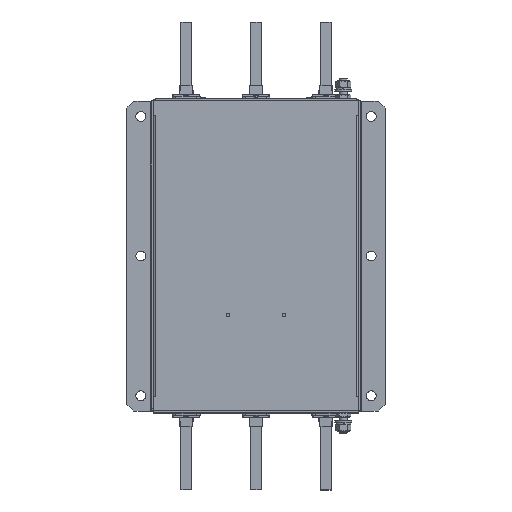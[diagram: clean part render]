
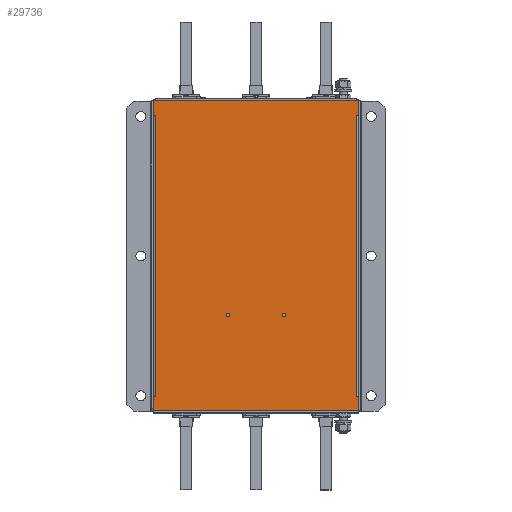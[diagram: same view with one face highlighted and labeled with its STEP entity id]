
A CAD part, top view. The second image highlights one B-rep face of the part: STEP entity #29736.
In plain terms, the highlighted planar face has unit normal (0, 0, 1).
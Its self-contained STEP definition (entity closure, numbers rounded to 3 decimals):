
#2555=LINE('',#52680,#4694);
#2558=LINE('',#52686,#4697);
#2561=LINE('',#52694,#4700);
#2564=LINE('',#52698,#4703);
#2582=LINE('',#52735,#4721);
#2584=LINE('',#52739,#4723);
#2586=LINE('',#52742,#4725);
#2587=LINE('',#52745,#4726);
#2588=LINE('',#52747,#4727);
#2589=LINE('',#52749,#4728);
#2590=LINE('',#52751,#4729);
#2591=LINE('',#52753,#4730);
#2592=LINE('',#52755,#4731);
#2593=LINE('',#52757,#4732);
#2594=LINE('',#52759,#4733);
#2595=LINE('',#52761,#4734);
#2596=LINE('',#52763,#4735);
#2597=LINE('',#52765,#4736);
#2598=LINE('',#52767,#4737);
#2599=LINE('',#52768,#4738);
#4694=VECTOR('',#40834,10.);
#4697=VECTOR('',#40839,10.);
#4700=VECTOR('',#40844,10.);
#4703=VECTOR('',#40849,10.);
#4721=VECTOR('',#40871,10.);
#4723=VECTOR('',#40875,10.);
#4725=VECTOR('',#40879,10.);
#4726=VECTOR('',#40882,10.);
#4727=VECTOR('',#40883,10.);
#4728=VECTOR('',#40884,10.);
#4729=VECTOR('',#40885,10.);
#4730=VECTOR('',#40886,10.);
#4731=VECTOR('',#40887,10.);
#4732=VECTOR('',#40888,10.);
#4733=VECTOR('',#40889,10.);
#4734=VECTOR('',#40890,10.);
#4735=VECTOR('',#40891,10.);
#4736=VECTOR('',#40892,10.);
#4737=VECTOR('',#40893,10.);
#4738=VECTOR('',#40894,10.);
#6382=FACE_BOUND('',#10396,.T.);
#6383=FACE_BOUND('',#10397,.T.);
#8045=FACE_OUTER_BOUND('',#10395,.T.);
#10395=EDGE_LOOP('',(#25434,#25435,#25436,#25437,#25438,#25439,#25440,#25441,
#25442,#25443,#25444,#25445,#25446,#25447,#25448,#25449,#25450,#25451,#25452,
#25453));
#10396=EDGE_LOOP('',(#25454));
#10397=EDGE_LOOP('',(#25455));
#11496=CIRCLE('',#32730,2.41);
#11500=CIRCLE('',#32738,2.41);
#14042=VERTEX_POINT('',#52595);
#14046=VERTEX_POINT('',#52607);
#14068=VERTEX_POINT('',#52665);
#14069=VERTEX_POINT('',#52669);
#14072=VERTEX_POINT('',#52684);
#14075=VERTEX_POINT('',#52691);
#14076=VERTEX_POINT('',#52693);
#14092=VERTEX_POINT('',#52732);
#14093=VERTEX_POINT('',#52734);
#14094=VERTEX_POINT('',#52738);
#14095=VERTEX_POINT('',#52744);
#14096=VERTEX_POINT('',#52746);
#14097=VERTEX_POINT('',#52748);
#14098=VERTEX_POINT('',#52750);
#14099=VERTEX_POINT('',#52752);
#14100=VERTEX_POINT('',#52754);
#14101=VERTEX_POINT('',#52756);
#14102=VERTEX_POINT('',#52758);
#14103=VERTEX_POINT('',#52760);
#14104=VERTEX_POINT('',#52762);
#14105=VERTEX_POINT('',#52764);
#14106=VERTEX_POINT('',#52766);
#17813=EDGE_CURVE('',#14042,#14042,#11496,.T.);
#17817=EDGE_CURVE('',#14046,#14046,#11500,.T.);
#17849=EDGE_CURVE('',#14068,#14069,#2555,.T.);
#17852=EDGE_CURVE('',#14069,#14072,#2558,.T.);
#17855=EDGE_CURVE('',#14076,#14075,#2561,.T.);
#17858=EDGE_CURVE('',#14072,#14076,#2564,.T.);
#17876=EDGE_CURVE('',#14093,#14092,#2582,.T.);
#17878=EDGE_CURVE('',#14094,#14068,#2584,.T.);
#17880=EDGE_CURVE('',#14092,#14094,#2586,.T.);
#17881=EDGE_CURVE('',#14095,#14075,#2587,.T.);
#17882=EDGE_CURVE('',#14096,#14095,#2588,.T.);
#17883=EDGE_CURVE('',#14097,#14096,#2589,.T.);
#17884=EDGE_CURVE('',#14097,#14098,#2590,.T.);
#17885=EDGE_CURVE('',#14098,#14099,#2591,.T.);
#17886=EDGE_CURVE('',#14099,#14100,#2592,.T.);
#17887=EDGE_CURVE('',#14100,#14101,#2593,.T.);
#17888=EDGE_CURVE('',#14101,#14102,#2594,.T.);
#17889=EDGE_CURVE('',#14102,#14103,#2595,.T.);
#17890=EDGE_CURVE('',#14103,#14104,#2596,.T.);
#17891=EDGE_CURVE('',#14105,#14104,#2597,.T.);
#17892=EDGE_CURVE('',#14106,#14105,#2598,.T.);
#17893=EDGE_CURVE('',#14093,#14106,#2599,.T.);
#25434=ORIENTED_EDGE('',*,*,#17855,.T.);
#25435=ORIENTED_EDGE('',*,*,#17881,.F.);
#25436=ORIENTED_EDGE('',*,*,#17882,.F.);
#25437=ORIENTED_EDGE('',*,*,#17883,.F.);
#25438=ORIENTED_EDGE('',*,*,#17884,.T.);
#25439=ORIENTED_EDGE('',*,*,#17885,.T.);
#25440=ORIENTED_EDGE('',*,*,#17886,.T.);
#25441=ORIENTED_EDGE('',*,*,#17887,.T.);
#25442=ORIENTED_EDGE('',*,*,#17888,.T.);
#25443=ORIENTED_EDGE('',*,*,#17889,.T.);
#25444=ORIENTED_EDGE('',*,*,#17890,.T.);
#25445=ORIENTED_EDGE('',*,*,#17891,.F.);
#25446=ORIENTED_EDGE('',*,*,#17892,.F.);
#25447=ORIENTED_EDGE('',*,*,#17893,.F.);
#25448=ORIENTED_EDGE('',*,*,#17876,.T.);
#25449=ORIENTED_EDGE('',*,*,#17880,.T.);
#25450=ORIENTED_EDGE('',*,*,#17878,.T.);
#25451=ORIENTED_EDGE('',*,*,#17849,.T.);
#25452=ORIENTED_EDGE('',*,*,#17852,.T.);
#25453=ORIENTED_EDGE('',*,*,#17858,.T.);
#25454=ORIENTED_EDGE('',*,*,#17813,.T.);
#25455=ORIENTED_EDGE('',*,*,#17817,.T.);
#26382=PLANE('',#32778);
#29736=ADVANCED_FACE('',(#8045,#6382,#6383),#26382,.T.);
#32730=AXIS2_PLACEMENT_3D('',#52596,#40737,#40738);
#32738=AXIS2_PLACEMENT_3D('',#52608,#40753,#40754);
#32778=AXIS2_PLACEMENT_3D('',#52743,#40880,#40881);
#40737=DIRECTION('center_axis',(0.,0.,
-1.));
#40738=DIRECTION('ref_axis',(-1.,0.,0.));
#40753=DIRECTION('center_axis',(0.,0.,
-1.));
#40754=DIRECTION('ref_axis',(1.,0.,0.));
#40834=DIRECTION('',(0.,1.,0.));
#40839=DIRECTION('',(-1.,0.,0.));
#40844=DIRECTION('',(1.,0.,0.));
#40849=DIRECTION('',(0.,1.,0.));
#40871=DIRECTION('',(-1.,0.,0.));
#40875=DIRECTION('',(1.,0.,0.));
#40879=DIRECTION('',(0.,1.,0.));
#40880=DIRECTION('center_axis',(0.,0.,
1.));
#40881=DIRECTION('ref_axis',(-1.,0.,0.));
#40882=DIRECTION('',(0.,-1.,0.));
#40883=DIRECTION('',(1.,0.,0.));
#40884=DIRECTION('',(0.,1.,0.));
#40885=DIRECTION('',(1.,0.,0.));
#40886=DIRECTION('',(0.,-1.,0.));
#40887=DIRECTION('',(-1.,0.,0.));
#40888=DIRECTION('',(0.,-1.,0.));
#40889=DIRECTION('',(1.,0.,0.));
#40890=DIRECTION('',(0.,-1.,0.));
#40891=DIRECTION('',(-1.,0.,0.));
#40892=DIRECTION('',(0.,1.,0.));
#40893=DIRECTION('',(-1.,0.,0.));
#40894=DIRECTION('',(0.,-1.,0.));
#52595=CARTESIAN_POINT('',(-37.59,-86.5,220.));
#52596=CARTESIAN_POINT('Origin',(-40.,-86.5,220.));
#52607=CARTESIAN_POINT('',(37.59,-86.5,220.));
#52608=CARTESIAN_POINT('Origin',(40.,-86.5,220.));
#52665=CARTESIAN_POINT('',(144.45,-203.15,220.));
#52669=CARTESIAN_POINT('',(144.45,200.15,220.));
#52680=CARTESIAN_POINT('',(144.45,99.325,220.));
#52684=CARTESIAN_POINT('',(144.44,200.15,220.));
#52686=CARTESIAN_POINT('',(72.22,200.15,220.));
#52691=CARTESIAN_POINT('',(146.75,200.16,220.));
#52693=CARTESIAN_POINT('',(144.44,200.16,220.));
#52694=CARTESIAN_POINT('',(73.375,200.16,220.));
#52698=CARTESIAN_POINT('',(144.44,99.33,220.));
#52732=CARTESIAN_POINT('',(144.44,-203.16,220.));
#52734=CARTESIAN_POINT('',(146.75,-203.16,220.));
#52735=CARTESIAN_POINT('',(72.22,-203.16,220.));
#52738=CARTESIAN_POINT('',(144.44,-203.15,220.));
#52739=CARTESIAN_POINT('',(73.375,-203.15,220.));
#52742=CARTESIAN_POINT('',(144.44,-102.325,220.));
#52743=CARTESIAN_POINT('Origin',(0.,-1.5,
220.));
#52744=CARTESIAN_POINT('',(146.75,220.25,220.));
#52745=CARTESIAN_POINT('',(146.75,220.25,220.));
#52746=CARTESIAN_POINT('',(-146.75,220.25,220.));
#52747=CARTESIAN_POINT('',(-146.75,220.25,220.));
#52748=CARTESIAN_POINT('',(-146.75,200.16,220.));
#52749=CARTESIAN_POINT('',(-146.75,-223.25,220.));
#52750=CARTESIAN_POINT('',(-144.44,200.16,220.));
#52751=CARTESIAN_POINT('',(-72.22,200.16,220.));
#52752=CARTESIAN_POINT('',(-144.44,200.15,220.));
#52753=CARTESIAN_POINT('',(-144.44,99.325,220.));
#52754=CARTESIAN_POINT('',(-144.45,200.15,220.));
#52755=CARTESIAN_POINT('',(-73.375,200.15,220.));
#52756=CARTESIAN_POINT('',(-144.45,-203.15,220.));
#52757=CARTESIAN_POINT('',(-144.45,-102.325,220.));
#52758=CARTESIAN_POINT('',(-144.44,-203.15,220.));
#52759=CARTESIAN_POINT('',(-72.22,-203.15,220.));
#52760=CARTESIAN_POINT('',(-144.44,-203.16,220.));
#52761=CARTESIAN_POINT('',(-144.44,-102.33,220.));
#52762=CARTESIAN_POINT('',(-146.75,-203.16,220.));
#52763=CARTESIAN_POINT('',(-73.375,-203.16,220.));
#52764=CARTESIAN_POINT('',(-146.75,-223.25,220.));
#52765=CARTESIAN_POINT('',(-146.75,-223.25,220.));
#52766=CARTESIAN_POINT('',(146.75,-223.25,220.));
#52767=CARTESIAN_POINT('',(146.75,-223.25,220.));
#52768=CARTESIAN_POINT('',(146.75,220.25,220.));
